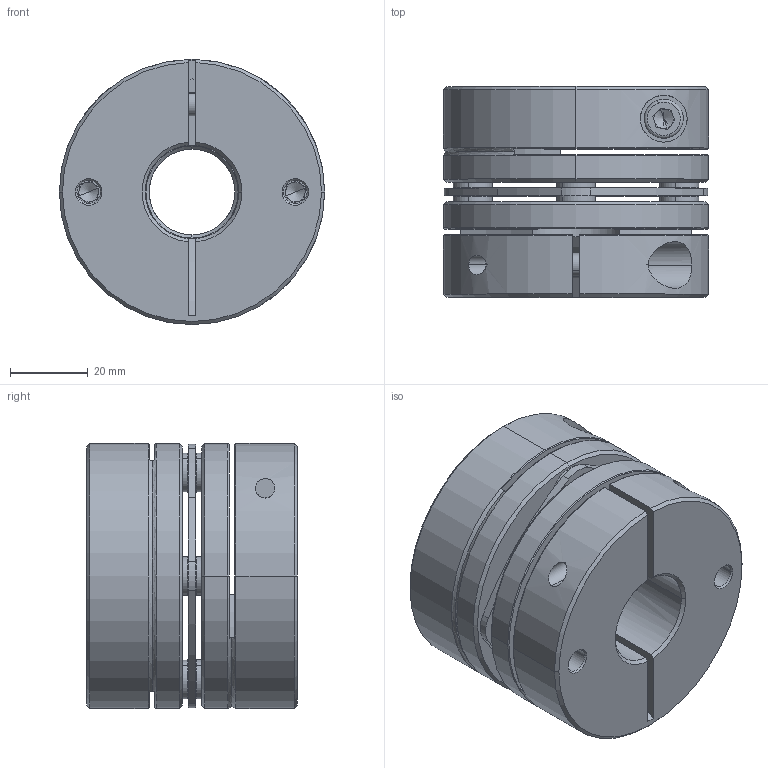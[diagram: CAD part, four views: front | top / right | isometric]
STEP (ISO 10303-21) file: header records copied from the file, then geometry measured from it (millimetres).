
FILE_DESCRIPTION (( 'STEP AP203' ), '1' );
FILE_NAME ('LD1-D68-22-24.STEP', '2021-10-26T07:59:13', ( '' ), ( '' ), 'SwSTEP 2.0', 'SolidWorks 2018', '' );
FILE_SCHEMA (( 'CONFIG_CONTROL_DESIGN' ));
Length unit declared in the file: millimetre
Products named in the file (2): 錨璃101^LD1-D68; LD1-D68-22-24
Assembly tree (1 placements, depth 2):
  LD1-D68-22-24
    錨璃101^LD1-D68
Bounding box: 68 x 54 x 68 mm (x, y, z)
Volume: 146374 mm3; surface area: 46443.2 mm2
Topology: 1 solids, 15 shells, 441 faces, 1047 edges, 642 vertices
Faces by surface type: cylinder 161, plane 136, cone 122, torus 22
Entity records: 13321 total; most frequent: CARTESIAN_POINT 2590, DIRECTION 2405, ORIENTED_EDGE 2062, EDGE_CURVE 1031, AXIS2_PLACEMENT_3D 977, VERTEX_POINT 642, CIRCLE 532, EDGE_LOOP 521
